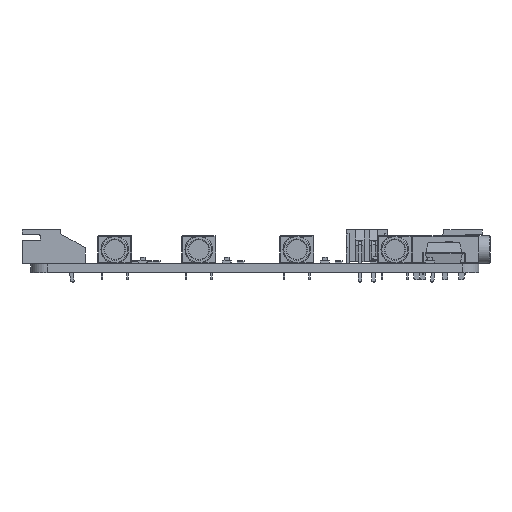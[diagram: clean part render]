
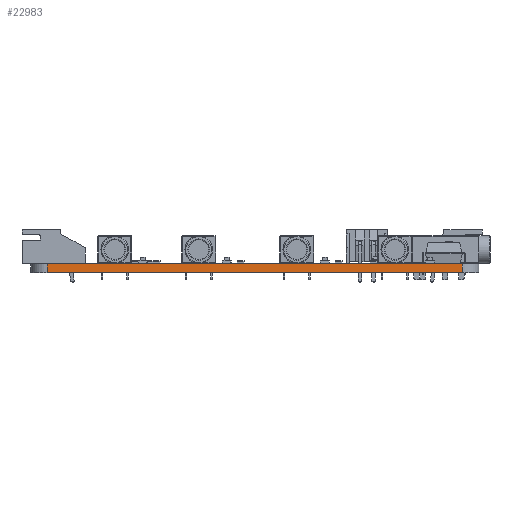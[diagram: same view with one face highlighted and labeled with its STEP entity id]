
A CAD part, left-side view. The second image highlights one B-rep face of the part: STEP entity #22983.
In plain terms, the highlighted planar face has unit normal (-1, 0, 0).
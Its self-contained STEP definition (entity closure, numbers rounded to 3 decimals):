
#18346 = VERTEX_POINT('',#18347);
#18347 = CARTESIAN_POINT('',(104.14,-48.72,0.));
#18354 = EDGE_CURVE('',#18355,#18346,#18357,.T.);
#18355 = VERTEX_POINT('',#18356);
#18356 = CARTESIAN_POINT('',(104.14,-124.,0.));
#18357 = LINE('',#18358,#18359);
#18358 = CARTESIAN_POINT('',(104.14,-124.,0.));
#18359 = VECTOR('',#18360,1.);
#18360 = DIRECTION('',(0.,1.,0.));
#20651 = VERTEX_POINT('',#20652);
#20652 = CARTESIAN_POINT('',(104.14,-48.72,1.6));
#20659 = EDGE_CURVE('',#20660,#20651,#20662,.T.);
#20660 = VERTEX_POINT('',#20661);
#20661 = CARTESIAN_POINT('',(104.14,-124.,1.6));
#20662 = LINE('',#20663,#20664);
#20663 = CARTESIAN_POINT('',(104.14,-124.,1.6));
#20664 = VECTOR('',#20665,1.);
#20665 = DIRECTION('',(0.,1.,0.));
#22953 = EDGE_CURVE('',#18346,#20651,#22954,.T.);
#22954 = LINE('',#22955,#22956);
#22955 = CARTESIAN_POINT('',(104.14,-48.72,0.));
#22956 = VECTOR('',#22957,1.);
#22957 = DIRECTION('',(0.,0.,1.));
#22983 = ADVANCED_FACE('',(#22984),#22995,.T.);
#22984 = FACE_BOUND('',#22985,.T.);
#22985 = EDGE_LOOP('',(#22986,#22992,#22993,#22994));
#22986 = ORIENTED_EDGE('',*,*,#22987,.T.);
#22987 = EDGE_CURVE('',#18355,#20660,#22988,.T.);
#22988 = LINE('',#22989,#22990);
#22989 = CARTESIAN_POINT('',(104.14,-124.,0.));
#22990 = VECTOR('',#22991,1.);
#22991 = DIRECTION('',(0.,0.,1.));
#22992 = ORIENTED_EDGE('',*,*,#20659,.T.);
#22993 = ORIENTED_EDGE('',*,*,#22953,.F.);
#22994 = ORIENTED_EDGE('',*,*,#18354,.F.);
#22995 = PLANE('',#22996);
#22996 = AXIS2_PLACEMENT_3D('',#22997,#22998,#22999);
#22997 = CARTESIAN_POINT('',(104.14,-124.,0.));
#22998 = DIRECTION('',(-1.,0.,0.));
#22999 = DIRECTION('',(0.,1.,0.));
